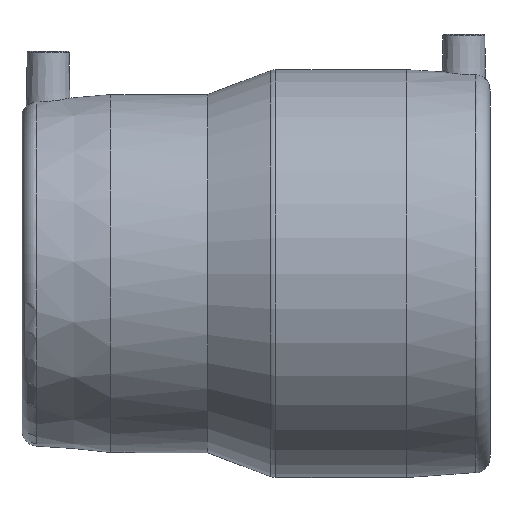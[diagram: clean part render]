
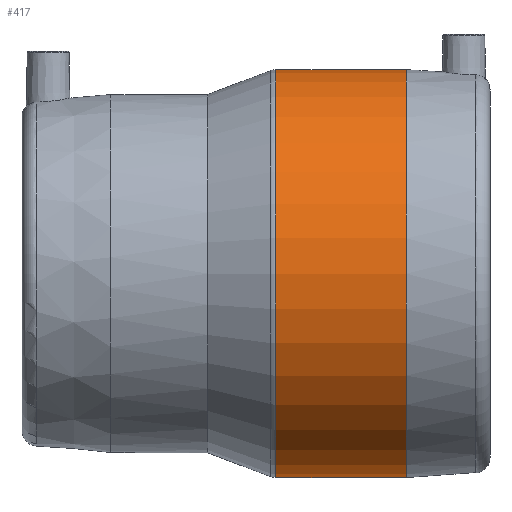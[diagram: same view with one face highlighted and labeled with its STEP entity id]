
A CAD part, front view. The second image highlights one B-rep face of the part: STEP entity #417.
In plain terms, the highlighted cylindrical face has radius 78 mm (diameter 156 mm), a full revolution.
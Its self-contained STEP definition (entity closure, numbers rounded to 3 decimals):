
#56=CYLINDRICAL_SURFACE('',#472,78.);
#70=CIRCLE('',#464,78.);
#76=CIRCLE('',#473,78.);
#111=ORIENTED_EDGE('',*,*,#200,.T.);
#112=ORIENTED_EDGE('',*,*,#190,.T.);
#190=EDGE_CURVE('',#235,#235,#70,.T.);
#200=EDGE_CURVE('',#244,#244,#76,.T.);
#235=VERTEX_POINT('',#685);
#244=VERTEX_POINT('',#726);
#285=EDGE_LOOP('',(#111));
#286=EDGE_LOOP('',(#112));
#350=FACE_BOUND('',#285,.T.);
#351=FACE_BOUND('',#286,.T.);
#417=ADVANCED_FACE('',(#350,#351),#56,.T.);
#464=AXIS2_PLACEMENT_3D('',#684,#532,#533);
#472=AXIS2_PLACEMENT_3D('',#724,#550,#551);
#473=AXIS2_PLACEMENT_3D('',#725,#552,#553);
#532=DIRECTION('',(-1.,0.,0.));
#533=DIRECTION('',(0.,0.,1.));
#550=DIRECTION('',(-1.,0.,0.));
#551=DIRECTION('',(0.,0.,1.));
#552=DIRECTION('',(1.,0.,0.));
#553=DIRECTION('',(0.,0.,-1.));
#684=CARTESIAN_POINT('',(63.5,0.,0.));
#685=CARTESIAN_POINT('',(63.5,0.,78.));
#724=CARTESIAN_POINT('',(-60.,0.,0.));
#725=CARTESIAN_POINT('',(13.602,0.,0.));
#726=CARTESIAN_POINT('',(13.602,0.,-78.));
